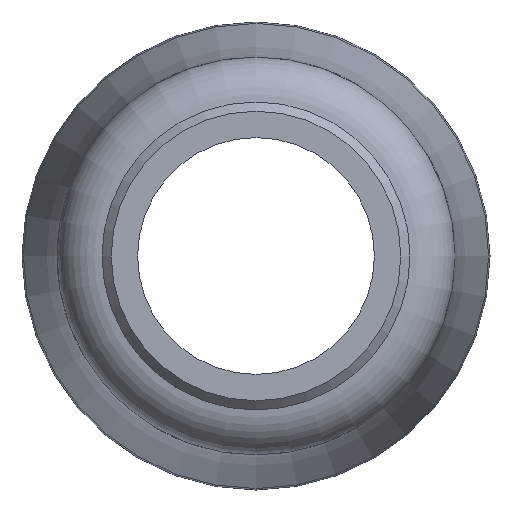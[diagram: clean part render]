
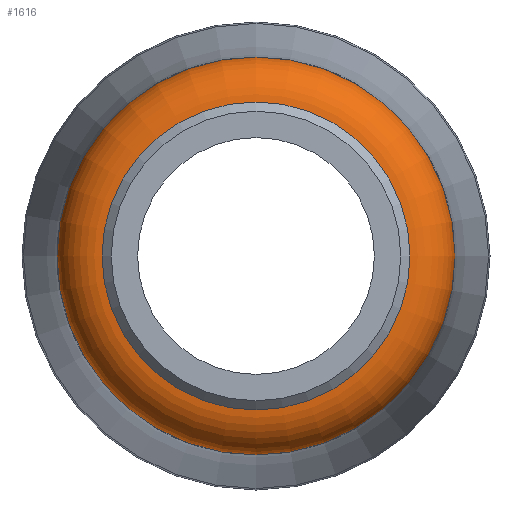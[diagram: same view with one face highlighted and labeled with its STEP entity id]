
A CAD part, left-side view. The second image highlights one B-rep face of the part: STEP entity #1616.
In plain terms, the highlighted toroidal (fillet/blend) face has major radius 15.275 mm and minor radius 4.7 mm.
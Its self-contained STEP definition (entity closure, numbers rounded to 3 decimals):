
#15=TOROIDAL_SURFACE('',#1766,15.275,4.7);
#342=FACE_BOUND('',#487,.T.);
#380=FACE_OUTER_BOUND('',#486,.T.);
#486=EDGE_LOOP('',(#1148));
#487=EDGE_LOOP('',(#1149));
#612=CIRCLE('',#1760,15.466);
#616=CIRCLE('',#1767,19.975);
#713=VERTEX_POINT('',#2766);
#717=VERTEX_POINT('',#2777);
#878=EDGE_CURVE('',#713,#713,#612,.T.);
#882=EDGE_CURVE('',#717,#717,#616,.T.);
#1148=ORIENTED_EDGE('',*,*,#878,.T.);
#1149=ORIENTED_EDGE('',*,*,#882,.T.);
#1616=ADVANCED_FACE('',(#380,#342),#15,.T.);
#1760=AXIS2_PLACEMENT_3D('',#2767,#2033,#2034);
#1766=AXIS2_PLACEMENT_3D('',#2776,#2045,#2046);
#1767=AXIS2_PLACEMENT_3D('',#2778,#2047,#2048);
#2033=DIRECTION('center_axis',(1.,0.,0.));
#2034=DIRECTION('ref_axis',(0.,0.,-1.));
#2045=DIRECTION('center_axis',(1.,0.,0.));
#2046=DIRECTION('ref_axis',(0.,1.,0.));
#2047=DIRECTION('center_axis',(-1.,0.,0.));
#2048=DIRECTION('ref_axis',(0.,1.,0.));
#2766=CARTESIAN_POINT('',(17.,-15.466,0.));
#2767=CARTESIAN_POINT('Origin',(17.,0.,0.));
#2776=CARTESIAN_POINT('Origin',(21.696,0.,0.));
#2777=CARTESIAN_POINT('',(21.696,-19.975,0.));
#2778=CARTESIAN_POINT('Origin',(21.696,0.,0.));
